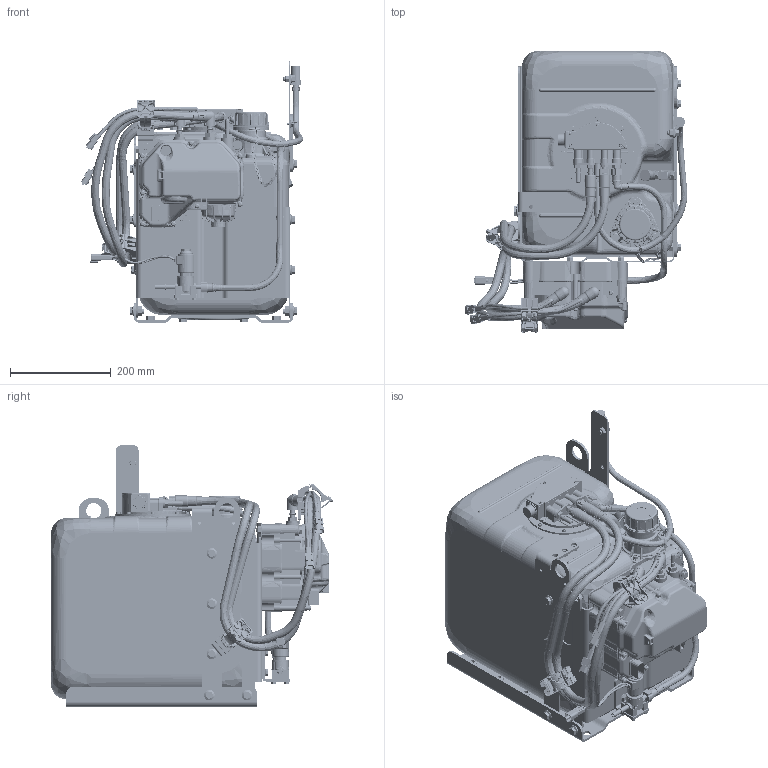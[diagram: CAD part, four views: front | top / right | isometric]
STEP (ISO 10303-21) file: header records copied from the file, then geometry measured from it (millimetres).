
FILE_DESCRIPTION(('CATIA V6 STEP'),'2;1');
FILE_NAME('D:\G2\Stage5\Standard Engine\Engine Model\Production\Loosed Part\UREA TANK_30L_190108.stp','2019-01-08T09:04:54+00:00',('none'),('none'),'3DEXPERIENCE Platform3DEXPERIENCE R2014x HotFix 24','3DEXPERIENCE Platform STEP AP203','none');
FILE_SCHEMA(('CONFIG_CONTROL_DESIGN'));
Bounding box: 442.6 x 560.92 x 520 mm (x, y, z)
Volume: 47596264.4 mm3; surface area: 2092924.7 mm2
Topology: 81 solids, 105 shells, 18554 faces, 47961 edges, 29440 vertices
Faces by surface type: plane 5903, cylinder 5181, bspline 4721, revolution 865, torus 697, cone 658, sphere 401, extrusion 128
Entity records: 723239 total; most frequent: CARTESIAN_POINT 343269, ORIENTED_EDGE 94910, DIRECTION 52758, EDGE_CURVE 47455, VERTEX_POINT 29439, AXIS2_PLACEMENT_3D 20456, VECTOR 19530, LINE 19402
